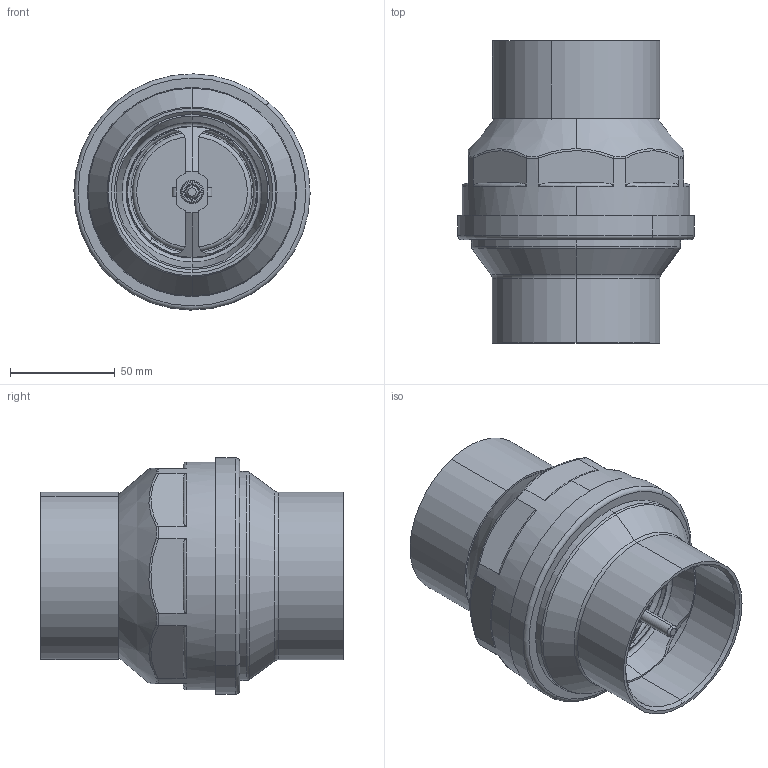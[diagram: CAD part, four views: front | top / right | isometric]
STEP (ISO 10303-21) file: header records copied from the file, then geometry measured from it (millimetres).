
FILE_DESCRIPTION (( 'STEP AP203' ), '1' );
FILE_NAME ('06C0001 G2 1_2.STEP', '2018-05-23T09:13:31', ( '' ), ( '' ), 'SwSTEP 2.0', 'SolidWorks 2016', '' );
FILE_SCHEMA (( 'CONFIG_CONTROL_DESIGN' ));
Length unit declared in the file: millimetre
Products named in the file (13): 05C0001 X G2 1_2; OR6250 X G2 1_2; 06C0002 X G2 1_2; 06C0001 G2 1_2; 06C0005 X G2 1_2; 06C0007 X G2 1_2; 06C0012 X G2 1_2; 06C0013 X G2 1_2; 06C0010 X G2 1_2; 06C0003 X G2 1_2; 06C0014 X G2 1_2; 05C0002 X G2 1_2; 06M1002 X G2 1_2
Assembly tree (12 placements, depth 2):
  06C0001 G2 1_2
    06C0002 X G2 1_2
    06C0007 X G2 1_2
    06C0013 X G2 1_2
    06C0003 X G2 1_2
    06C0005 X G2 1_2
    06C0012 X G2 1_2
    06C0010 X G2 1_2
    06C0014 X G2 1_2
    05C0002 X G2 1_2
    06M1002 X G2 1_2
    05C0001 X G2 1_2
    OR6250 X G2 1_2
Bounding box: 112.99 x 144.5 x 112.99 mm (x, y, z)
Volume: 198002 mm3; surface area: 158762.5 mm2
Topology: 12 solids, 12 shells, 390 faces, 971 edges, 613 vertices
Faces by surface type: cylinder 137, plane 115, torus 77, cone 53, bspline 8
Entity records: 14684 total; most frequent: CARTESIAN_POINT 3863, DIRECTION 2095, ORIENTED_EDGE 1942, EDGE_CURVE 971, AXIS2_PLACEMENT_3D 873, VERTEX_POINT 613, CIRCLE 476, EDGE_LOOP 424
